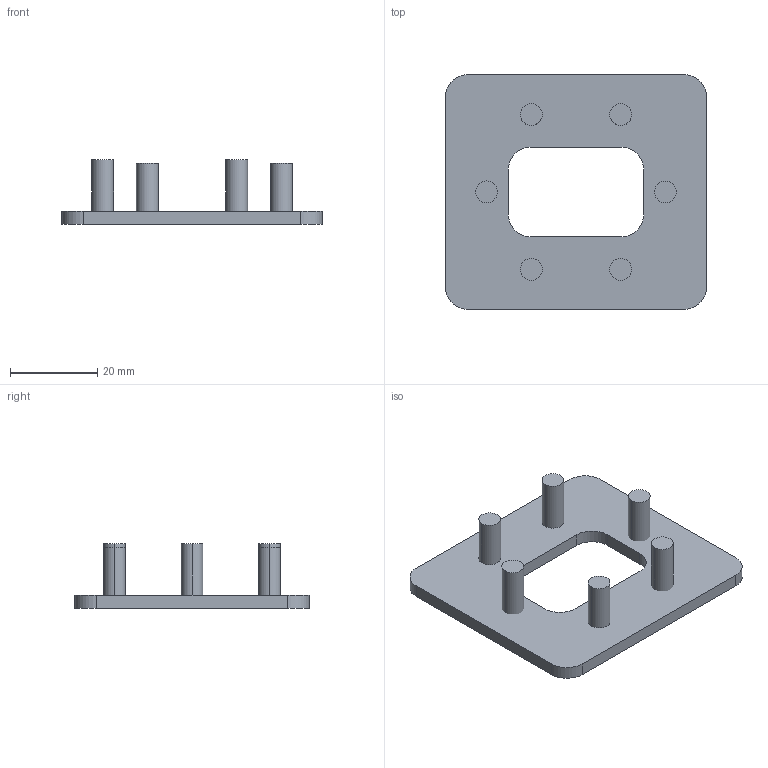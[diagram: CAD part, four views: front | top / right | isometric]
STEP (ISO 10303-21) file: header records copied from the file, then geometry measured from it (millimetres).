
FILE_DESCRIPTION (( 'STEP AP203' ), '1' );
FILE_NAME ('Core+yoke.step', '2026-06-05T03:33:03', ( '' ), ( '' ), 'SwSTEP 2.0', 'SolidWorks 2024', '' );
FILE_SCHEMA (( 'CONFIG_CONTROL_DESIGN' ));
Length unit declared in the file: millimetre
Products named in the file (1): Core+yoke
Bounding box: 59.8 x 53.8 x 14.75 mm (x, y, z)
Volume: 9261.4 mm3; surface area: 7716.2 mm2
Topology: 7 solids, 7 shells, 48 faces, 102 edges, 68 vertices
Faces by surface type: cylinder 26, plane 22
Entity records: 1399 total; most frequent: DIRECTION 252, CARTESIAN_POINT 219, ORIENTED_EDGE 204, EDGE_CURVE 102, AXIS2_PLACEMENT_3D 101, VERTEX_POINT 68, EDGE_LOOP 56, CIRCLE 52
